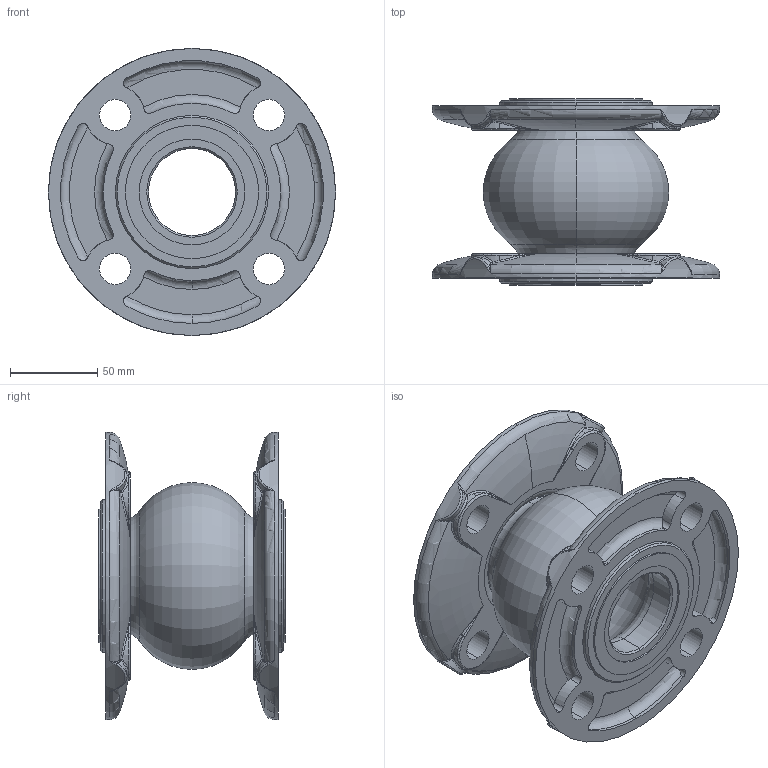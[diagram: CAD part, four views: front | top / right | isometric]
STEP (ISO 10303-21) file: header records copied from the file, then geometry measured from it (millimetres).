
FILE_DESCRIPTION (( 'STEP AP214' ), '1' );
FILE_NAME ('DN50 单球橡胶软接.STEP', '2025-12-26T01:26:39', ( '' ), ( '' ), 'SwSTEP 2.0', 'SolidWorks 2024', '' );
FILE_SCHEMA (( 'AUTOMOTIVE_DESIGN' ));
Length unit declared in the file: millimetre
Products named in the file (3): DN50 单球橡胶; DN50 单球橡胶软接; DN50新款球铁法兰
Assembly tree (3 placements, depth 2):
  DN50 单球橡胶软接
    DN50 单球橡胶
    DN50新款球铁法兰  x2
Bounding box: 165 x 107 x 165 mm (x, y, z)
Volume: 526038.5 mm3; surface area: 173507.7 mm2
Topology: 3 solids, 3 shells, 432 faces, 1038 edges, 596 vertices
Faces by surface type: cylinder 172, bspline 112, torus 86, plane 38, sphere 16, cone 8
Entity records: 13016 total; most frequent: CARTESIAN_POINT 5029, ORIENTED_EDGE 1118, DIRECTION 1088, EDGE_CURVE 559, AXIS2_PLACEMENT_3D 489, VERTEX_POINT 330, CIRCLE 295, EDGE_LOOP 267
